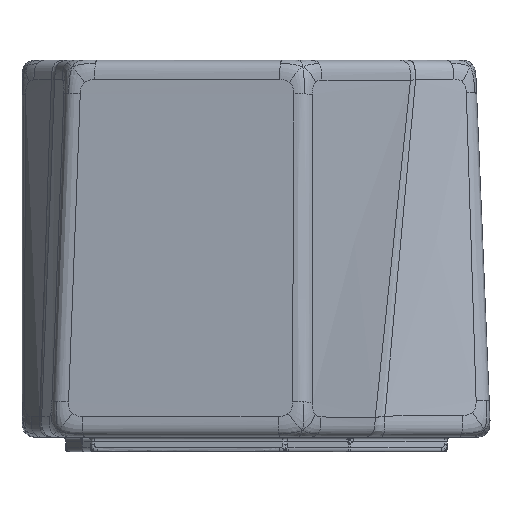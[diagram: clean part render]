
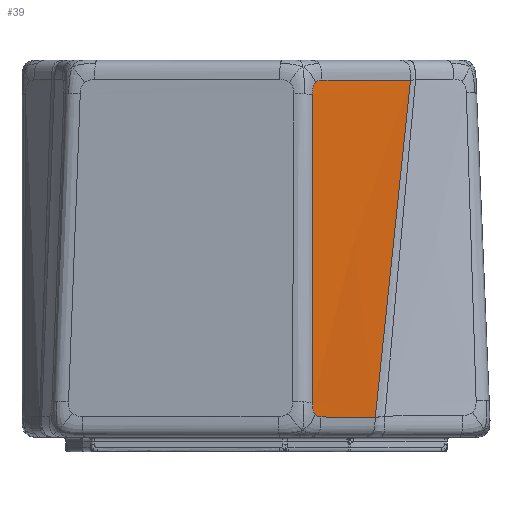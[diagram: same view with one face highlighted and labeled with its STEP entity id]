
A CAD part, left-side view. The second image highlights one B-rep face of the part: STEP entity #39.
In plain terms, the highlighted free-form (B-spline) face has degree [1, 1] with [2, 2] control points.
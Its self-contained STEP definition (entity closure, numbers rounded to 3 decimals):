
#39=ADVANCED_FACE('',(#621),#8680,.T.);
#621=FACE_OUTER_BOUND('',#1205,.T.);
#1205=EDGE_LOOP('',(#2038,#2039,#2040,#2041,#2042,#2043,#2044,#2045));
#2038=ORIENTED_EDGE('',*,*,#5376,.T.);
#2039=ORIENTED_EDGE('',*,*,#5366,.T.);
#2040=ORIENTED_EDGE('',*,*,#5035,.T.);
#2041=ORIENTED_EDGE('',*,*,#5500,.T.);
#2042=ORIENTED_EDGE('',*,*,#5502,.T.);
#2043=ORIENTED_EDGE('',*,*,#5045,.T.);
#2044=ORIENTED_EDGE('',*,*,#5050,.T.);
#2045=ORIENTED_EDGE('',*,*,#5052,.F.);
#5035=EDGE_CURVE('',#7945,#7949,#6549,.T.);
#5045=EDGE_CURVE('',#7948,#7947,#6559,.T.);
#5050=EDGE_CURVE('',#7947,#7946,#6564,.T.);
#5052=EDGE_CURVE('',#7944,#7946,#6566,.T.);
#5366=EDGE_CURVE('',#8132,#7945,#6880,.T.);
#5376=EDGE_CURVE('',#7944,#8132,#6890,.T.);
#5500=EDGE_CURVE('',#7949,#8206,#7014,.T.);
#5502=EDGE_CURVE('',#8206,#7948,#7016,.T.);
#6549=B_SPLINE_CURVE_WITH_KNOTS('',3,(#50025,#50026,#50027,#50028),
 .UNSPECIFIED.,.F.,.F.,(4,4),(23.31,235.574),
 .UNSPECIFIED.);
#6559=B_SPLINE_CURVE_WITH_KNOTS('',3,(#50075,#50076,#50077,#50078),
 .UNSPECIFIED.,.F.,.F.,(4,4),(19.2,82.257),
 .UNSPECIFIED.);
#6564=B_SPLINE_CURVE_WITH_KNOTS('',3,(#50099,#50100,#50101,#50102),
 .UNSPECIFIED.,.F.,.F.,(4,4),(13.259,247.785),
 .UNSPECIFIED.);
#6566=B_SPLINE_CURVE_WITH_KNOTS('',3,(#50109,#50110,#50111,#50112),
 .UNSPECIFIED.,.F.,.F.,(4,4),(17.248,108.637),
 .UNSPECIFIED.);
#6880=B_SPLINE_CURVE_WITH_KNOTS('',5,(#52911,#52912,#52913,#52914,#52915,
#52916,#52917,#52918,#52919,#52920),.UNSPECIFIED.,.F.,.F.,(6,1,1,1,1,6),
(0.,0.2,0.4,0.6,0.8,1.),.UNSPECIFIED.);
#6890=B_SPLINE_CURVE_WITH_KNOTS('',5,(#53011,#53012,#53013,#53014,#53015,
#53016,#53017,#53018,#53019,#53020),.UNSPECIFIED.,.F.,.F.,(6,1,1,1,1,6),
(-1.,-0.8,-0.6,-0.4,-0.2,0.),.UNSPECIFIED.);
#7014=B_SPLINE_CURVE_WITH_KNOTS('',5,(#54227,#54228,#54229,#54230,#54231,
#54232,#54233,#54234,#54235,#54236),.UNSPECIFIED.,.F.,.F.,(6,1,1,1,1,6),
(-1.,-0.8,-0.6,-0.4,-0.2,0.),.UNSPECIFIED.);
#7016=B_SPLINE_CURVE_WITH_KNOTS('',5,(#54247,#54248,#54249,#54250,#54251,
#54252,#54253,#54254,#54255,#54256),.UNSPECIFIED.,.F.,.F.,(6,1,1,1,1,6),
(0.,0.2,0.4,0.6,0.8,1.),.UNSPECIFIED.);
#7944=VERTEX_POINT('',#47966);
#7945=VERTEX_POINT('',#47967);
#7946=VERTEX_POINT('',#47968);
#7947=VERTEX_POINT('',#47969);
#7948=VERTEX_POINT('',#47970);
#7949=VERTEX_POINT('',#47971);
#8132=VERTEX_POINT('',#48154);
#8206=VERTEX_POINT('',#48228);
#8680=B_SPLINE_SURFACE_WITH_KNOTS('',1,1,((#9599,#9600),(#9601,#9602)),
 .UNSPECIFIED.,.F.,.F.,.F.,(2,2),(2,2),(-1100.385,-964.879),
(0.,260.),.UNSPECIFIED.);
#9599=CARTESIAN_POINT('',(906.217,59.896,10.));
#9600=CARTESIAN_POINT('',(914.778,59.896,270.));
#9601=CARTESIAN_POINT('',(974.716,10.279,10.));
#9602=CARTESIAN_POINT('',(998.57,-15.751,270.));
#47966=CARTESIAN_POINT('',(927.472,48.129,256.229));
#47967=CARTESIAN_POINT('',(919.881,54.668,246.474));
#47968=CARTESIAN_POINT('',(995.576,-12.816,255.822));
#47969=CARTESIAN_POINT('',(972.549,11.428,23.664));
#47970=CARTESIAN_POINT('',(921.756,48.801,24.134));
#47971=CARTESIAN_POINT('',(913.92,54.757,34.266));
#48154=CARTESIAN_POINT('',(922.478,52.554,254.434));
#48228=CARTESIAN_POINT('',(916.243,52.891,26.129));
#50025=CARTESIAN_POINT('',(919.881,54.668,246.474));
#50026=CARTESIAN_POINT('',(917.809,54.682,175.743));
#50027=CARTESIAN_POINT('',(915.798,54.7,105.01));
#50028=CARTESIAN_POINT('',(913.92,54.757,34.266));
#50075=CARTESIAN_POINT('',(921.756,48.801,24.134));
#50076=CARTESIAN_POINT('',(938.684,36.339,23.977));
#50077=CARTESIAN_POINT('',(955.615,23.881,23.82));
#50078=CARTESIAN_POINT('',(972.549,11.428,23.664));
#50099=CARTESIAN_POINT('',(972.549,11.428,23.664));
#50100=CARTESIAN_POINT('',(980.227,3.468,101.065));
#50101=CARTESIAN_POINT('',(987.821,-4.56,178.464));
#50102=CARTESIAN_POINT('',(995.576,-12.816,255.822));
#50109=CARTESIAN_POINT('',(927.472,48.129,256.229));
#50110=CARTESIAN_POINT('',(950.171,27.811,256.093));
#50111=CARTESIAN_POINT('',(972.872,7.496,255.958));
#50112=CARTESIAN_POINT('',(995.576,-12.816,255.822));
#52911=CARTESIAN_POINT('',(922.478,52.554,254.434));
#52912=CARTESIAN_POINT('',(922.284,52.722,254.245));
#52913=CARTESIAN_POINT('',(921.915,53.042,253.839));
#52914=CARTESIAN_POINT('',(921.414,53.473,253.155));
#52915=CARTESIAN_POINT('',(920.853,53.947,252.089));
#52916=CARTESIAN_POINT('',(920.332,54.371,250.498));
#52917=CARTESIAN_POINT('',(920.06,54.575,249.018));
#52918=CARTESIAN_POINT('',(919.938,54.651,247.792));
#52919=CARTESIAN_POINT('',(919.894,54.668,246.922));
#52920=CARTESIAN_POINT('',(919.881,54.668,246.474));
#53011=CARTESIAN_POINT('',(927.472,48.129,256.229));
#53012=CARTESIAN_POINT('',(927.222,48.353,256.23));
#53013=CARTESIAN_POINT('',(926.731,48.792,256.219));
#53014=CARTESIAN_POINT('',(926.024,49.423,256.158));
#53015=CARTESIAN_POINT('',(925.143,50.207,255.989));
#53016=CARTESIAN_POINT('',(924.144,51.093,255.632));
#53017=CARTESIAN_POINT('',(923.426,51.725,255.227));
#53018=CARTESIAN_POINT('',(922.934,52.157,254.857));
#53019=CARTESIAN_POINT('',(922.626,52.425,254.58));
#53020=CARTESIAN_POINT('',(922.478,52.554,254.434));
#54227=CARTESIAN_POINT('',(913.92,54.757,34.266));
#54228=CARTESIAN_POINT('',(913.907,54.758,33.775));
#54229=CARTESIAN_POINT('',(913.907,54.74,32.829));
#54230=CARTESIAN_POINT('',(913.979,54.662,31.52));
#54231=CARTESIAN_POINT('',(914.211,54.461,29.986));
#54232=CARTESIAN_POINT('',(914.705,54.066,28.393));
#54233=CARTESIAN_POINT('',(915.244,53.649,27.355));
#54234=CARTESIAN_POINT('',(915.719,53.287,26.697));
#54235=CARTESIAN_POINT('',(916.064,53.026,26.31));
#54236=CARTESIAN_POINT('',(916.243,52.891,26.129));
#54247=CARTESIAN_POINT('',(916.243,52.891,26.129));
#54248=CARTESIAN_POINT('',(916.418,52.759,25.951));
#54249=CARTESIAN_POINT('',(916.781,52.487,25.621));
#54250=CARTESIAN_POINT('',(917.36,52.052,25.192));
#54251=CARTESIAN_POINT('',(918.198,51.429,24.747));
#54252=CARTESIAN_POINT('',(919.328,50.591,24.378));
#54253=CARTESIAN_POINT('',(920.282,49.887,24.213));
#54254=CARTESIAN_POINT('',(921.015,49.347,24.152));
#54255=CARTESIAN_POINT('',(921.508,48.983,24.136));
#54256=CARTESIAN_POINT('',(921.756,48.801,24.134));
